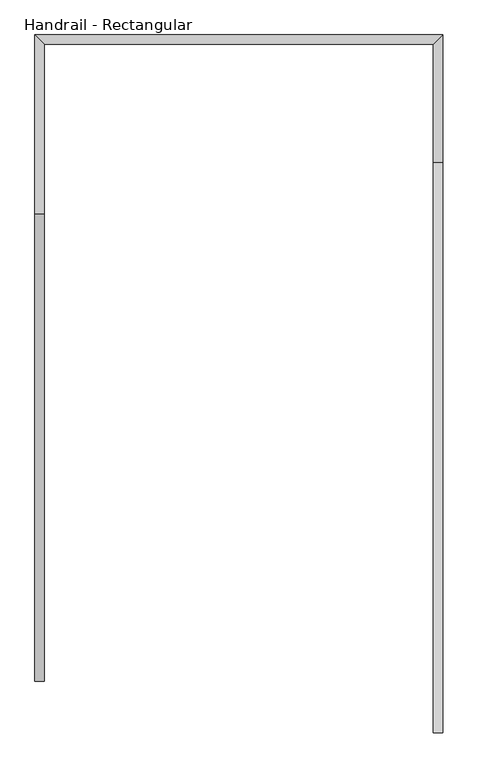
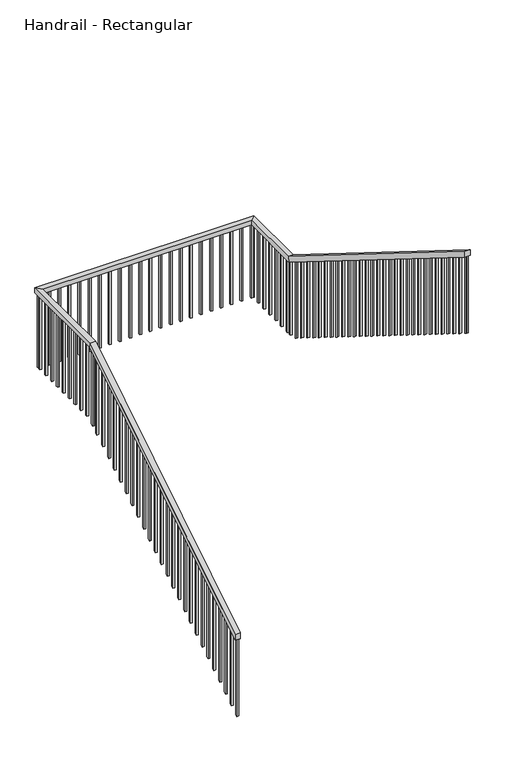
"""IFC4 building model written with IfcOpenShell, lengths in millimetres: railing geometry, Handrail - Rectangular."""

from ifc_helpers import new_model, si_unit, frame, origin, place, context, project, spatial, polyline, outline, extrude, faceted_brep, source, transform, mapped, element, save


def handrail_rectangular_ed192b8c(model_context):
    return source(origin(), model_context, "Body", "SolidModel", [
        faceted_brep([(29211.6482386, 4381.0975872, 1088.5714286), (29211.6482386, 4381.0975872, 1028.7093152), (29262.4482386, 4381.0975872, 1028.7093152), (29262.4482386, 4381.0975872, 1088.5714286), (29211.6482386, 6895.6975872, 2656.1142857), (29211.6482386, 6910.2347273, 2605.3142857), (29262.4482386, 6910.2347273, 2605.3142857), (29262.4482386, 6895.6975872, 2656.1142857), (29211.6482386, 7860.8975872, 2656.1142857), (29211.6482386, 7860.8975872, 2605.3142857), (29262.4482386, 7810.0975872, 2605.3142857), (29262.4482386, 7810.0975872, 2656.1142857), (31407.2771094, 7860.8975872, 2656.1142857), (31407.2771094, 7860.8975872, 2605.3142857), (31356.4771094, 7810.0975872, 2605.3142857), (31356.4771094, 7810.0975872, 2656.1142857), (31407.2771094, 7175.0975872, 2656.1142857), (31407.2771094, 7160.560447, 2605.3142857), (31356.4771094, 7160.560447, 2605.3142857), (31356.4771094, 7175.0975872, 2656.1142857), (31407.2771094, 4101.6975872, 4572.0), (31356.4771094, 4101.6975872, 4572.0), (31356.4771094, 4101.6975872, 4512.1378867), (31407.2771094, 4101.6975872, 4512.1378867)], [[[0, 1, 2, 3]], [[1, 0, 4, 5]], [[2, 1, 5, 6]], [[3, 2, 6, 7]], [[0, 3, 7, 4]], [[5, 4, 8, 9]], [[6, 5, 9, 10]], [[7, 6, 10, 11]], [[4, 7, 11, 8]], [[9, 8, 12, 13]], [[10, 9, 13, 14]], [[11, 10, 14, 15]], [[8, 11, 15, 12]], [[13, 12, 16, 17]], [[14, 13, 17, 18]], [[15, 14, 18, 19]], [[12, 15, 19, 16]], [[20, 21, 22, 23]], [[17, 16, 20, 23]], [[18, 17, 23, 22]], [[19, 18, 22, 21]], [[16, 19, 21, 20]]]),
        extrude(outline(polyline([(4136.6225872, 4490.3664581), (4136.6225872, 3675.4099734), (4117.5725872, 3687.2852981), (4117.5725872, 4502.2417828), (4136.6225872, 4490.3664581)])), frame((31372.3521094, 0.0, 0.0), z_axis=(1.0, 0.0, 0.0), x_axis=(0.0, 1.0, 0.0)), (0.0, 0.0, 1.0), 19.05),
        extrude(outline(polyline([(4238.2225872, 4427.0313932), (4238.2225872, 3612.0749085), (4219.1725872, 3623.9502331), (4219.1725872, 4438.9067178), (4238.2225872, 4427.0313932)])), frame((31372.3521094, 0.0, 0.0), z_axis=(1.0, 0.0, 0.0), x_axis=(0.0, 1.0, 0.0)), (0.0, 0.0, 1.0), 19.05),
        extrude(outline(polyline([(4339.8225872, 4363.6963282), (4339.8225872, 3548.7398435), (4320.7725872, 3560.6151682), (4320.7725872, 4375.5716529), (4339.8225872, 4363.6963282)])), frame((31372.3521094, 0.0, 0.0), z_axis=(1.0, 0.0, 0.0), x_axis=(0.0, 1.0, 0.0)), (0.0, 0.0, 1.0), 19.05),
        extrude(outline(polyline([(4441.4225872, 4300.3612633), (4441.4225872, 3485.4047786), (4422.3725872, 3497.2801033), (4422.3725872, 4312.236588), (4441.4225872, 4300.3612633)])), frame((31372.3521094, 0.0, 0.0), z_axis=(1.0, 0.0, 0.0), x_axis=(0.0, 1.0, 0.0)), (0.0, 0.0, 1.0), 19.05),
        extrude(outline(polyline([(4543.0225872, 4237.0261984), (4543.0225872, 3422.0697137), (4523.9725872, 3433.9450383), (4523.9725872, 4248.901523), (4543.0225872, 4237.0261984)])), frame((31372.3521094, 0.0, 0.0), z_axis=(1.0, 0.0, 0.0), x_axis=(0.0, 1.0, 0.0)), (0.0, 0.0, 1.0), 19.05),
        extrude(outline(polyline([(4644.6225872, 4173.6911334), (4644.6225872, 3358.7346487), (4625.5725872, 3370.6099734), (4625.5725872, 4185.5664581), (4644.6225872, 4173.6911334)])), frame((31372.3521094, 0.0, 0.0), z_axis=(1.0, 0.0, 0.0), x_axis=(0.0, 1.0, 0.0)), (0.0, 0.0, 1.0), 19.05),
        extrude(outline(polyline([(4746.2225872, 4110.3560685), (4746.2225872, 3295.3995838), (4727.1725872, 3307.2749085), (4727.1725872, 4122.2313932), (4746.2225872, 4110.3560685)])), frame((31372.3521094, 0.0, 0.0), z_axis=(1.0, 0.0, 0.0), x_axis=(0.0, 1.0, 0.0)), (0.0, 0.0, 1.0), 19.05),
        extrude(outline(polyline([(4847.8225872, 4047.0210036), (4847.8225872, 3232.0645188), (4828.7725872, 3243.9398435), (4828.7725872, 4058.8963282), (4847.8225872, 4047.0210036)])), frame((31372.3521094, 0.0, 0.0), z_axis=(1.0, 0.0, 0.0), x_axis=(0.0, 1.0, 0.0)), (0.0, 0.0, 1.0), 19.05),
        extrude(outline(polyline([(4949.4225872, 3983.6859386), (4949.4225872, 3168.7294539), (4930.3725872, 3180.6047786), (4930.3725872, 3995.5612633), (4949.4225872, 3983.6859386)])), frame((31372.3521094, 0.0, 0.0), z_axis=(1.0, 0.0, 0.0), x_axis=(0.0, 1.0, 0.0)), (0.0, 0.0, 1.0), 19.05),
        extrude(outline(polyline([(5051.0225872, 3920.3508737), (5051.0225872, 3105.394389), (5031.9725872, 3117.2697137), (5031.9725872, 3932.2261984), (5051.0225872, 3920.3508737)])), frame((31372.3521094, 0.0, 0.0), z_axis=(1.0, 0.0, 0.0), x_axis=(0.0, 1.0, 0.0)), (0.0, 0.0, 1.0), 19.05),
        extrude(outline(polyline([(5152.6225872, 3857.0158087), (5152.6225872, 3042.059324), (5133.5725872, 3053.9346487), (5133.5725872, 3868.8911334), (5152.6225872, 3857.0158087)])), frame((31372.3521094, 0.0, 0.0), z_axis=(1.0, 0.0, 0.0), x_axis=(0.0, 1.0, 0.0)), (0.0, 0.0, 1.0), 19.05),
        extrude(outline(polyline([(5254.2225872, 3793.6807438), (5254.2225872, 2978.7242591), (5235.1725872, 2990.5995838), (5235.1725872, 3805.5560685), (5254.2225872, 3793.6807438)])), frame((31372.3521094, 0.0, 0.0), z_axis=(1.0, 0.0, 0.0), x_axis=(0.0, 1.0, 0.0)), (0.0, 0.0, 1.0), 19.05),
        extrude(outline(polyline([(5355.8225872, 3730.3456789), (5355.8225872, 2915.3891942), (5336.7725872, 2927.2645188), (5336.7725872, 3742.2210036), (5355.8225872, 3730.3456789)])), frame((31372.3521094, 0.0, 0.0), z_axis=(1.0, 0.0, 0.0), x_axis=(0.0, 1.0, 0.0)), (0.0, 0.0, 1.0), 19.05),
        extrude(outline(polyline([(5457.4225872, 3667.0106139), (5457.4225872, 2852.0541292), (5438.3725872, 2863.9294539), (5438.3725872, 3678.8859386), (5457.4225872, 3667.0106139)])), frame((31372.3521094, 0.0, 0.0), z_axis=(1.0, 0.0, 0.0), x_axis=(0.0, 1.0, 0.0)), (0.0, 0.0, 1.0), 19.05),
        extrude(outline(polyline([(5559.0225872, 3603.675549), (5559.0225872, 2788.7190643), (5539.9725872, 2800.594389), (5539.9725872, 3615.5508737), (5559.0225872, 3603.675549)])), frame((31372.3521094, 0.0, 0.0), z_axis=(1.0, 0.0, 0.0), x_axis=(0.0, 1.0, 0.0)), (0.0, 0.0, 1.0), 19.05),
        extrude(outline(polyline([(5660.6225872, 3540.3404841), (5660.6225872, 2725.3839994), (5641.5725872, 2737.259324), (5641.5725872, 3552.2158087), (5660.6225872, 3540.3404841)])), frame((31372.3521094, 0.0, 0.0), z_axis=(1.0, 0.0, 0.0), x_axis=(0.0, 1.0, 0.0)), (0.0, 0.0, 1.0), 19.05),
        extrude(outline(polyline([(5762.2225872, 3477.0054191), (5762.2225872, 2662.0489344), (5743.1725872, 2673.9242591), (5743.1725872, 3488.8807438), (5762.2225872, 3477.0054191)])), frame((31372.3521094, 0.0, 0.0), z_axis=(1.0, 0.0, 0.0), x_axis=(0.0, 1.0, 0.0)), (0.0, 0.0, 1.0), 19.05),
        extrude(outline(polyline([(5863.8225872, 3413.6703542), (5863.8225872, 2598.7138695), (5844.7725872, 2610.5891942), (5844.7725872, 3425.5456789), (5863.8225872, 3413.6703542)])), frame((31372.3521094, 0.0, 0.0), z_axis=(1.0, 0.0, 0.0), x_axis=(0.0, 1.0, 0.0)), (0.0, 0.0, 1.0), 19.05),
        extrude(outline(polyline([(5965.4225872, 3350.3352893), (5965.4225872, 2535.3788046), (5946.3725872, 2547.2541292), (5946.3725872, 3362.2106139), (5965.4225872, 3350.3352893)])), frame((31372.3521094, 0.0, 0.0), z_axis=(1.0, 0.0, 0.0), x_axis=(0.0, 1.0, 0.0)), (0.0, 0.0, 1.0), 19.05),
        extrude(outline(polyline([(6067.0225872, 3287.0002243), (6067.0225872, 2472.0437396), (6047.9725872, 2483.9190643), (6047.9725872, 3298.875549), (6067.0225872, 3287.0002243)])), frame((31372.3521094, 0.0, 0.0), z_axis=(1.0, 0.0, 0.0), x_axis=(0.0, 1.0, 0.0)), (0.0, 0.0, 1.0), 19.05),
        extrude(outline(polyline([(6168.6225872, 3223.6651594), (6168.6225872, 2408.7086747), (6149.5725872, 2420.5839994), (6149.5725872, 3235.5404841), (6168.6225872, 3223.6651594)])), frame((31372.3521094, 0.0, 0.0), z_axis=(1.0, 0.0, 0.0), x_axis=(0.0, 1.0, 0.0)), (0.0, 0.0, 1.0), 19.05),
        extrude(outline(polyline([(6270.2225872, 3160.3300945), (6270.2225872, 2345.3736098), (6251.1725872, 2357.2489344), (6251.1725872, 3172.2054191), (6270.2225872, 3160.3300945)])), frame((31372.3521094, 0.0, 0.0), z_axis=(1.0, 0.0, 0.0), x_axis=(0.0, 1.0, 0.0)), (0.0, 0.0, 1.0), 19.05),
        extrude(outline(polyline([(6371.8225872, 3096.9950295), (6371.8225872, 2282.0385448), (6352.7725872, 2293.9138695), (6352.7725872, 3108.8703542), (6371.8225872, 3096.9950295)])), frame((31372.3521094, 0.0, 0.0), z_axis=(1.0, 0.0, 0.0), x_axis=(0.0, 1.0, 0.0)), (0.0, 0.0, 1.0), 19.05),
        extrude(outline(polyline([(6473.4225872, 3033.6599646), (6473.4225872, 2218.7034799), (6454.3725872, 2230.5788046), (6454.3725872, 3045.5352893), (6473.4225872, 3033.6599646)])), frame((31372.3521094, 0.0, 0.0), z_axis=(1.0, 0.0, 0.0), x_axis=(0.0, 1.0, 0.0)), (0.0, 0.0, 1.0), 19.05),
        extrude(outline(polyline([(6575.0225872, 2970.3248997), (6575.0225872, 2155.368415), (6555.9725872, 2167.2437396), (6555.9725872, 2982.2002243), (6575.0225872, 2970.3248997)])), frame((31372.3521094, 0.0, 0.0), z_axis=(1.0, 0.0, 0.0), x_axis=(0.0, 1.0, 0.0)), (0.0, 0.0, 1.0), 19.05),
        extrude(outline(polyline([(6676.6225872, 2906.9898347), (6676.6225872, 2092.03335), (6657.5725872, 2103.9086747), (6657.5725872, 2918.8651594), (6676.6225872, 2906.9898347)])), frame((31372.3521094, 0.0, 0.0), z_axis=(1.0, 0.0, 0.0), x_axis=(0.0, 1.0, 0.0)), (0.0, 0.0, 1.0), 19.05),
        extrude(outline(polyline([(6778.2225872, 2843.6547698), (6778.2225872, 2028.6982851), (6759.1725872, 2040.5736098), (6759.1725872, 2855.5300945), (6778.2225872, 2843.6547698)])), frame((31372.3521094, 0.0, 0.0), z_axis=(1.0, 0.0, 0.0), x_axis=(0.0, 1.0, 0.0)), (0.0, 0.0, 1.0), 19.05),
        extrude(outline(polyline([(6879.8225872, 2780.3197048), (6879.8225872, 1965.3632201), (6860.7725872, 1977.2385448), (6860.7725872, 2792.1950295), (6879.8225872, 2780.3197048)])), frame((31372.3521094, 0.0, 0.0), z_axis=(1.0, 0.0, 0.0), x_axis=(0.0, 1.0, 0.0)), (0.0, 0.0, 1.0), 19.05),
        extrude(outline(polyline([(6981.4225872, 2716.9846399), (6981.4225872, 1902.0281552), (6962.3725872, 1913.9034799), (6962.3725872, 2728.8599646), (6981.4225872, 2716.9846399)])), frame((31372.3521094, 0.0, 0.0), z_axis=(1.0, 0.0, 0.0), x_axis=(0.0, 1.0, 0.0)), (0.0, 0.0, 1.0), 19.05),
        extrude(outline(polyline([(7083.0225872, 2653.649575), (7083.0225872, 1838.6930903), (7063.9725872, 1850.568415), (7063.9725872, 2665.5248997), (7083.0225872, 2653.649575)])), frame((31372.3521094, 0.0, 0.0), z_axis=(1.0, 0.0, 0.0), x_axis=(0.0, 1.0, 0.0)), (0.0, 0.0, 1.0), 19.05),
        extrude(outline(polyline([(31391.4021094, 7235.4225872), (31391.4021094, 7216.3725872), (31372.3521094, 7216.3725872), (31372.3521094, 7235.4225872), (31391.4021094, 7235.4225872)])), frame((0.0, 0.0, 1817.9142857), z_axis=(0.0, 0.0, 1.0), x_axis=(1.0, 0.0, 0.0)), (0.0, 0.0, 1.0), 787.4),
        extrude(outline(polyline([(31391.4021094, 7337.0225872), (31391.4021094, 7317.9725872), (31372.3521094, 7317.9725872), (31372.3521094, 7337.0225872), (31391.4021094, 7337.0225872)])), frame((0.0, 0.0, 1817.9142857), z_axis=(0.0, 0.0, 1.0), x_axis=(1.0, 0.0, 0.0)), (0.0, 0.0, 1.0), 787.4),
        extrude(outline(polyline([(31391.4021094, 7438.6225872), (31391.4021094, 7419.5725872), (31372.3521094, 7419.5725872), (31372.3521094, 7438.6225872), (31391.4021094, 7438.6225872)])), frame((0.0, 0.0, 1817.9142857), z_axis=(0.0, 0.0, 1.0), x_axis=(1.0, 0.0, 0.0)), (0.0, 0.0, 1.0), 787.4),
        extrude(outline(polyline([(31391.4021094, 7540.2225872), (31391.4021094, 7521.1725872), (31372.3521094, 7521.1725872), (31372.3521094, 7540.2225872), (31391.4021094, 7540.2225872)])), frame((0.0, 0.0, 1817.9142857), z_axis=(0.0, 0.0, 1.0), x_axis=(1.0, 0.0, 0.0)), (0.0, 0.0, 1.0), 787.4),
        extrude(outline(polyline([(31391.4021094, 7641.8225872), (31391.4021094, 7622.7725872), (31372.3521094, 7622.7725872), (31372.3521094, 7641.8225872), (31391.4021094, 7641.8225872)])), frame((0.0, 0.0, 1817.9142857), z_axis=(0.0, 0.0, 1.0), x_axis=(1.0, 0.0, 0.0)), (0.0, 0.0, 1.0), 787.4),
        extrude(outline(polyline([(31391.4021094, 7743.4225872), (31391.4021094, 7724.3725872), (31372.3521094, 7724.3725872), (31372.3521094, 7743.4225872), (31391.4021094, 7743.4225872)])), frame((0.0, 0.0, 1817.9142857), z_axis=(0.0, 0.0, 1.0), x_axis=(1.0, 0.0, 0.0)), (0.0, 0.0, 1.0), 787.4),
        extrude(outline(polyline([(31361.1232386, 7845.0225872), (31380.1732386, 7845.0225872), (31380.1732386, 7825.9725872), (31361.1232386, 7825.9725872), (31361.1232386, 7845.0225872)])), frame((0.0, 0.0, 1817.9142857), z_axis=(0.0, 0.0, 1.0), x_axis=(1.0, 0.0, 0.0)), (0.0, 0.0, 1.0), 787.4),
        extrude(outline(polyline([(31259.5232386, 7845.0225872), (31278.5732386, 7845.0225872), (31278.5732386, 7825.9725872), (31259.5232386, 7825.9725872), (31259.5232386, 7845.0225872)])), frame((0.0, 0.0, 1817.9142857), z_axis=(0.0, 0.0, 1.0), x_axis=(1.0, 0.0, 0.0)), (0.0, 0.0, 1.0), 787.4),
        extrude(outline(polyline([(31157.9232386, 7845.0225872), (31176.9732386, 7845.0225872), (31176.9732386, 7825.9725872), (31157.9232386, 7825.9725872), (31157.9232386, 7845.0225872)])), frame((0.0, 0.0, 1817.9142857), z_axis=(0.0, 0.0, 1.0), x_axis=(1.0, 0.0, 0.0)), (0.0, 0.0, 1.0), 787.4),
        extrude(outline(polyline([(31056.3232386, 7845.0225872), (31075.3732386, 7845.0225872), (31075.3732386, 7825.9725872), (31056.3232386, 7825.9725872), (31056.3232386, 7845.0225872)])), frame((0.0, 0.0, 1817.9142857), z_axis=(0.0, 0.0, 1.0), x_axis=(1.0, 0.0, 0.0)), (0.0, 0.0, 1.0), 787.4),
        extrude(outline(polyline([(30954.7232386, 7845.0225872), (30973.7732386, 7845.0225872), (30973.7732386, 7825.9725872), (30954.7232386, 7825.9725872), (30954.7232386, 7845.0225872)])), frame((0.0, 0.0, 1817.9142857), z_axis=(0.0, 0.0, 1.0), x_axis=(1.0, 0.0, 0.0)), (0.0, 0.0, 1.0), 787.4),
        extrude(outline(polyline([(30853.1232386, 7845.0225872), (30872.1732386, 7845.0225872), (30872.1732386, 7825.9725872), (30853.1232386, 7825.9725872), (30853.1232386, 7845.0225872)])), frame((0.0, 0.0, 1817.9142857), z_axis=(0.0, 0.0, 1.0), x_axis=(1.0, 0.0, 0.0)), (0.0, 0.0, 1.0), 787.4),
        extrude(outline(polyline([(30751.5232386, 7845.0225872), (30770.5732386, 7845.0225872), (30770.5732386, 7825.9725872), (30751.5232386, 7825.9725872), (30751.5232386, 7845.0225872)])), frame((0.0, 0.0, 1817.9142857), z_axis=(0.0, 0.0, 1.0), x_axis=(1.0, 0.0, 0.0)), (0.0, 0.0, 1.0), 787.4),
        extrude(outline(polyline([(30649.9232386, 7845.0225872), (30668.9732386, 7845.0225872), (30668.9732386, 7825.9725872), (30649.9232386, 7825.9725872), (30649.9232386, 7845.0225872)])), frame((0.0, 0.0, 1817.9142857), z_axis=(0.0, 0.0, 1.0), x_axis=(1.0, 0.0, 0.0)), (0.0, 0.0, 1.0), 787.4),
        extrude(outline(polyline([(30548.3232386, 7845.0225872), (30567.3732386, 7845.0225872), (30567.3732386, 7825.9725872), (30548.3232386, 7825.9725872), (30548.3232386, 7845.0225872)])), frame((0.0, 0.0, 1817.9142857), z_axis=(0.0, 0.0, 1.0), x_axis=(1.0, 0.0, 0.0)), (0.0, 0.0, 1.0), 787.4),
        extrude(outline(polyline([(30446.7232386, 7845.0225872), (30465.7732386, 7845.0225872), (30465.7732386, 7825.9725872), (30446.7232386, 7825.9725872), (30446.7232386, 7845.0225872)])), frame((0.0, 0.0, 1817.9142857), z_axis=(0.0, 0.0, 1.0), x_axis=(1.0, 0.0, 0.0)), (0.0, 0.0, 1.0), 787.4),
        extrude(outline(polyline([(30345.1232386, 7845.0225872), (30364.1732386, 7845.0225872), (30364.1732386, 7825.9725872), (30345.1232386, 7825.9725872), (30345.1232386, 7845.0225872)])), frame((0.0, 0.0, 1817.9142857), z_axis=(0.0, 0.0, 1.0), x_axis=(1.0, 0.0, 0.0)), (0.0, 0.0, 1.0), 787.4),
        extrude(outline(polyline([(30243.5232386, 7845.0225872), (30262.5732386, 7845.0225872), (30262.5732386, 7825.9725872), (30243.5232386, 7825.9725872), (30243.5232386, 7845.0225872)])), frame((0.0, 0.0, 1817.9142857), z_axis=(0.0, 0.0, 1.0), x_axis=(1.0, 0.0, 0.0)), (0.0, 0.0, 1.0), 787.4),
        extrude(outline(polyline([(30141.9232386, 7845.0225872), (30160.9732386, 7845.0225872), (30160.9732386, 7825.9725872), (30141.9232386, 7825.9725872), (30141.9232386, 7845.0225872)])), frame((0.0, 0.0, 1817.9142857), z_axis=(0.0, 0.0, 1.0), x_axis=(1.0, 0.0, 0.0)), (0.0, 0.0, 1.0), 787.4),
        extrude(outline(polyline([(30040.3232386, 7845.0225872), (30059.3732386, 7845.0225872), (30059.3732386, 7825.9725872), (30040.3232386, 7825.9725872), (30040.3232386, 7845.0225872)])), frame((0.0, 0.0, 1817.9142857), z_axis=(0.0, 0.0, 1.0), x_axis=(1.0, 0.0, 0.0)), (0.0, 0.0, 1.0), 787.4),
        extrude(outline(polyline([(29938.7232386, 7845.0225872), (29957.7732386, 7845.0225872), (29957.7732386, 7825.9725872), (29938.7232386, 7825.9725872), (29938.7232386, 7845.0225872)])), frame((0.0, 0.0, 1817.9142857), z_axis=(0.0, 0.0, 1.0), x_axis=(1.0, 0.0, 0.0)), (0.0, 0.0, 1.0), 787.4),
        extrude(outline(polyline([(29837.1232386, 7845.0225872), (29856.1732386, 7845.0225872), (29856.1732386, 7825.9725872), (29837.1232386, 7825.9725872), (29837.1232386, 7845.0225872)])), frame((0.0, 0.0, 1817.9142857), z_axis=(0.0, 0.0, 1.0), x_axis=(1.0, 0.0, 0.0)), (0.0, 0.0, 1.0), 787.4),
        extrude(outline(polyline([(29735.5232386, 7845.0225872), (29754.5732386, 7845.0225872), (29754.5732386, 7825.9725872), (29735.5232386, 7825.9725872), (29735.5232386, 7845.0225872)])), frame((0.0, 0.0, 1817.9142857), z_axis=(0.0, 0.0, 1.0), x_axis=(1.0, 0.0, 0.0)), (0.0, 0.0, 1.0), 787.4),
        extrude(outline(polyline([(29633.9232386, 7845.0225872), (29652.9732386, 7845.0225872), (29652.9732386, 7825.9725872), (29633.9232386, 7825.9725872), (29633.9232386, 7845.0225872)])), frame((0.0, 0.0, 1817.9142857), z_axis=(0.0, 0.0, 1.0), x_axis=(1.0, 0.0, 0.0)), (0.0, 0.0, 1.0), 787.4),
        extrude(outline(polyline([(29532.3232386, 7845.0225872), (29551.3732386, 7845.0225872), (29551.3732386, 7825.9725872), (29532.3232386, 7825.9725872), (29532.3232386, 7845.0225872)])), frame((0.0, 0.0, 1817.9142857), z_axis=(0.0, 0.0, 1.0), x_axis=(1.0, 0.0, 0.0)), (0.0, 0.0, 1.0), 787.4),
        extrude(outline(polyline([(29430.7232386, 7845.0225872), (29449.7732386, 7845.0225872), (29449.7732386, 7825.9725872), (29430.7232386, 7825.9725872), (29430.7232386, 7845.0225872)])), frame((0.0, 0.0, 1817.9142857), z_axis=(0.0, 0.0, 1.0), x_axis=(1.0, 0.0, 0.0)), (0.0, 0.0, 1.0), 787.4),
        extrude(outline(polyline([(29329.1232386, 7845.0225872), (29348.1732386, 7845.0225872), (29348.1732386, 7825.9725872), (29329.1232386, 7825.9725872), (29329.1232386, 7845.0225872)])), frame((0.0, 0.0, 1817.9142857), z_axis=(0.0, 0.0, 1.0), x_axis=(1.0, 0.0, 0.0)), (0.0, 0.0, 1.0), 787.4),
        extrude(outline(polyline([(29227.5232386, 7800.5725872), (29227.5232386, 7819.6225872), (29246.5732386, 7819.6225872), (29246.5732386, 7800.5725872), (29227.5232386, 7800.5725872)])), frame((0.0, 0.0, 1817.9142857), z_axis=(0.0, 0.0, 1.0), x_axis=(1.0, 0.0, 0.0)), (0.0, 0.0, 1.0), 787.4),
        extrude(outline(polyline([(29227.5232386, 7698.9725872), (29227.5232386, 7718.0225872), (29246.5732386, 7718.0225872), (29246.5732386, 7698.9725872), (29227.5232386, 7698.9725872)])), frame((0.0, 0.0, 1817.9142857), z_axis=(0.0, 0.0, 1.0), x_axis=(1.0, 0.0, 0.0)), (0.0, 0.0, 1.0), 787.4),
        extrude(outline(polyline([(29227.5232386, 7597.3725872), (29227.5232386, 7616.4225872), (29246.5732386, 7616.4225872), (29246.5732386, 7597.3725872), (29227.5232386, 7597.3725872)])), frame((0.0, 0.0, 1817.9142857), z_axis=(0.0, 0.0, 1.0), x_axis=(1.0, 0.0, 0.0)), (0.0, 0.0, 1.0), 787.4),
        extrude(outline(polyline([(29227.5232386, 7495.7725872), (29227.5232386, 7514.8225872), (29246.5732386, 7514.8225872), (29246.5732386, 7495.7725872), (29227.5232386, 7495.7725872)])), frame((0.0, 0.0, 1817.9142857), z_axis=(0.0, 0.0, 1.0), x_axis=(1.0, 0.0, 0.0)), (0.0, 0.0, 1.0), 787.4),
        extrude(outline(polyline([(29227.5232386, 7394.1725872), (29227.5232386, 7413.2225872), (29246.5732386, 7413.2225872), (29246.5732386, 7394.1725872), (29227.5232386, 7394.1725872)])), frame((0.0, 0.0, 1817.9142857), z_axis=(0.0, 0.0, 1.0), x_axis=(1.0, 0.0, 0.0)), (0.0, 0.0, 1.0), 787.4),
        extrude(outline(polyline([(29227.5232386, 7292.5725872), (29227.5232386, 7311.6225872), (29246.5732386, 7311.6225872), (29246.5732386, 7292.5725872), (29227.5232386, 7292.5725872)])), frame((0.0, 0.0, 1817.9142857), z_axis=(0.0, 0.0, 1.0), x_axis=(1.0, 0.0, 0.0)), (0.0, 0.0, 1.0), 787.4),
        extrude(outline(polyline([(29227.5232386, 7190.9725872), (29227.5232386, 7210.0225872), (29246.5732386, 7210.0225872), (29246.5732386, 7190.9725872), (29227.5232386, 7190.9725872)])), frame((0.0, 0.0, 1817.9142857), z_axis=(0.0, 0.0, 1.0), x_axis=(1.0, 0.0, 0.0)), (0.0, 0.0, 1.0), 787.4),
        extrude(outline(polyline([(29227.5232386, 7089.3725872), (29227.5232386, 7108.4225872), (29246.5732386, 7108.4225872), (29246.5732386, 7089.3725872), (29227.5232386, 7089.3725872)])), frame((0.0, 0.0, 1817.9142857), z_axis=(0.0, 0.0, 1.0), x_axis=(1.0, 0.0, 0.0)), (0.0, 0.0, 1.0), 787.4),
        extrude(outline(polyline([(29227.5232386, 6987.7725872), (29227.5232386, 7006.8225872), (29246.5732386, 7006.8225872), (29246.5732386, 6987.7725872), (29227.5232386, 6987.7725872)])), frame((0.0, 0.0, 1817.9142857), z_axis=(0.0, 0.0, 1.0), x_axis=(1.0, 0.0, 0.0)), (0.0, 0.0, 1.0), 787.4),
        extrude(outline(polyline([(6829.0225872, 2554.688536), (6829.0225872, 1739.7320513), (6809.9725872, 1727.8567266), (6809.9725872, 2542.8132113), (6829.0225872, 2554.688536)])), frame((29227.5232386, 0.0, 0.0), z_axis=(1.0, 0.0, 0.0), x_axis=(0.0, 1.0, 0.0)), (0.0, 0.0, 1.0), 19.05),
        extrude(outline(polyline([(6727.4225872, 2491.3534711), (6727.4225872, 1676.3969864), (6708.3725872, 1664.5216617), (6708.3725872, 2479.4781464), (6727.4225872, 2491.3534711)])), frame((29227.5232386, 0.0, 0.0), z_axis=(1.0, 0.0, 0.0), x_axis=(0.0, 1.0, 0.0)), (0.0, 0.0, 1.0), 19.05),
        extrude(outline(polyline([(6625.8225872, 2428.0184061), (6625.8225872, 1613.0619214), (6606.7725872, 1601.1865968), (6606.7725872, 2416.1430815), (6625.8225872, 2428.0184061)])), frame((29227.5232386, 0.0, 0.0), z_axis=(1.0, 0.0, 0.0), x_axis=(0.0, 1.0, 0.0)), (0.0, 0.0, 1.0), 19.05),
        extrude(outline(polyline([(6524.2225872, 2364.6833412), (6524.2225872, 1549.7268565), (6505.1725872, 1537.8515318), (6505.1725872, 2352.8080165), (6524.2225872, 2364.6833412)])), frame((29227.5232386, 0.0, 0.0), z_axis=(1.0, 0.0, 0.0), x_axis=(0.0, 1.0, 0.0)), (0.0, 0.0, 1.0), 19.05),
        extrude(outline(polyline([(6422.6225872, 2301.3482763), (6422.6225872, 1486.3917916), (6403.5725872, 1474.5164669), (6403.5725872, 2289.4729516), (6422.6225872, 2301.3482763)])), frame((29227.5232386, 0.0, 0.0), z_axis=(1.0, 0.0, 0.0), x_axis=(0.0, 1.0, 0.0)), (0.0, 0.0, 1.0), 19.05),
        extrude(outline(polyline([(6321.0225872, 2238.0132113), (6321.0225872, 1423.0567266), (6301.9725872, 1411.181402), (6301.9725872, 2226.1378867), (6321.0225872, 2238.0132113)])), frame((29227.5232386, 0.0, 0.0), z_axis=(1.0, 0.0, 0.0), x_axis=(0.0, 1.0, 0.0)), (0.0, 0.0, 1.0), 19.05),
        extrude(outline(polyline([(6219.4225872, 2174.6781464), (6219.4225872, 1359.7216617), (6200.3725872, 1347.846337), (6200.3725872, 2162.8028217), (6219.4225872, 2174.6781464)])), frame((29227.5232386, 0.0, 0.0), z_axis=(1.0, 0.0, 0.0), x_axis=(0.0, 1.0, 0.0)), (0.0, 0.0, 1.0), 19.05),
        extrude(outline(polyline([(6117.8225872, 2111.3430815), (6117.8225872, 1296.3865968), (6098.7725872, 1284.5112721), (6098.7725872, 2099.4677568), (6117.8225872, 2111.3430815)])), frame((29227.5232386, 0.0, 0.0), z_axis=(1.0, 0.0, 0.0), x_axis=(0.0, 1.0, 0.0)), (0.0, 0.0, 1.0), 19.05),
        extrude(outline(polyline([(6016.2225872, 2048.0080165), (6016.2225872, 1233.0515318), (5997.1725872, 1221.1762072), (5997.1725872, 2036.1326919), (6016.2225872, 2048.0080165)])), frame((29227.5232386, 0.0, 0.0), z_axis=(1.0, 0.0, 0.0), x_axis=(0.0, 1.0, 0.0)), (0.0, 0.0, 1.0), 19.05),
        extrude(outline(polyline([(5914.6225872, 1984.6729516), (5914.6225872, 1169.7164669), (5895.5725872, 1157.8411422), (5895.5725872, 1972.7976269), (5914.6225872, 1984.6729516)])), frame((29227.5232386, 0.0, 0.0), z_axis=(1.0, 0.0, 0.0), x_axis=(0.0, 1.0, 0.0)), (0.0, 0.0, 1.0), 19.05),
        extrude(outline(polyline([(5813.0225872, 1921.3378867), (5813.0225872, 1106.381402), (5793.9725872, 1094.5060773), (5793.9725872, 1909.462562), (5813.0225872, 1921.3378867)])), frame((29227.5232386, 0.0, 0.0), z_axis=(1.0, 0.0, 0.0), x_axis=(0.0, 1.0, 0.0)), (0.0, 0.0, 1.0), 19.05),
        extrude(outline(polyline([(5711.4225872, 1858.0028217), (5711.4225872, 1043.046337), (5692.3725872, 1031.1710124), (5692.3725872, 1846.1274971), (5711.4225872, 1858.0028217)])), frame((29227.5232386, 0.0, 0.0), z_axis=(1.0, 0.0, 0.0), x_axis=(0.0, 1.0, 0.0)), (0.0, 0.0, 1.0), 19.05),
        extrude(outline(polyline([(5609.8225872, 1794.6677568), (5609.8225872, 979.7112721), (5590.7725872, 967.8359474), (5590.7725872, 1782.7924321), (5609.8225872, 1794.6677568)])), frame((29227.5232386, 0.0, 0.0), z_axis=(1.0, 0.0, 0.0), x_axis=(0.0, 1.0, 0.0)), (0.0, 0.0, 1.0), 19.05),
        extrude(outline(polyline([(5508.2225872, 1731.3326919), (5508.2225872, 916.3762072), (5489.1725872, 904.5008825), (5489.1725872, 1719.4573672), (5508.2225872, 1731.3326919)])), frame((29227.5232386, 0.0, 0.0), z_axis=(1.0, 0.0, 0.0), x_axis=(0.0, 1.0, 0.0)), (0.0, 0.0, 1.0), 19.05),
        extrude(outline(polyline([(5406.6225872, 1667.9976269), (5406.6225872, 853.0411422), (5387.5725872, 841.1658175), (5387.5725872, 1656.1223023), (5406.6225872, 1667.9976269)])), frame((29227.5232386, 0.0, 0.0), z_axis=(1.0, 0.0, 0.0), x_axis=(0.0, 1.0, 0.0)), (0.0, 0.0, 1.0), 19.05),
        extrude(outline(polyline([(5305.0225872, 1604.662562), (5305.0225872, 789.7060773), (5285.9725872, 777.8307526), (5285.9725872, 1592.7872373), (5305.0225872, 1604.662562)])), frame((29227.5232386, 0.0, 0.0), z_axis=(1.0, 0.0, 0.0), x_axis=(0.0, 1.0, 0.0)), (0.0, 0.0, 1.0), 19.05),
        extrude(outline(polyline([(5203.4225872, 1541.3274971), (5203.4225872, 726.3710124), (5184.3725872, 714.4956877), (5184.3725872, 1529.4521724), (5203.4225872, 1541.3274971)])), frame((29227.5232386, 0.0, 0.0), z_axis=(1.0, 0.0, 0.0), x_axis=(0.0, 1.0, 0.0)), (0.0, 0.0, 1.0), 19.05),
        extrude(outline(polyline([(5101.8225872, 1477.9924321), (5101.8225872, 663.0359474), (5082.7725872, 651.1606227), (5082.7725872, 1466.1171074), (5101.8225872, 1477.9924321)])), frame((29227.5232386, 0.0, 0.0), z_axis=(1.0, 0.0, 0.0), x_axis=(0.0, 1.0, 0.0)), (0.0, 0.0, 1.0), 19.05),
        extrude(outline(polyline([(5000.2225872, 1414.6573672), (5000.2225872, 599.7008825), (4981.1725872, 587.8255578), (4981.1725872, 1402.7820425), (5000.2225872, 1414.6573672)])), frame((29227.5232386, 0.0, 0.0), z_axis=(1.0, 0.0, 0.0), x_axis=(0.0, 1.0, 0.0)), (0.0, 0.0, 1.0), 19.05),
        extrude(outline(polyline([(4898.6225872, 1351.3223023), (4898.6225872, 536.3658175), (4879.5725872, 524.4904929), (4879.5725872, 1339.4469776), (4898.6225872, 1351.3223023)])), frame((29227.5232386, 0.0, 0.0), z_axis=(1.0, 0.0, 0.0), x_axis=(0.0, 1.0, 0.0)), (0.0, 0.0, 1.0), 19.05),
        extrude(outline(polyline([(4797.0225872, 1287.9872373), (4797.0225872, 473.0307526), (4777.9725872, 461.1554279), (4777.9725872, 1276.1119126), (4797.0225872, 1287.9872373)])), frame((29227.5232386, 0.0, 0.0), z_axis=(1.0, 0.0, 0.0), x_axis=(0.0, 1.0, 0.0)), (0.0, 0.0, 1.0), 19.05),
        extrude(outline(polyline([(4695.4225872, 1224.6521724), (4695.4225872, 409.6956877), (4676.3725872, 397.820363), (4676.3725872, 1212.7768477), (4695.4225872, 1224.6521724)])), frame((29227.5232386, 0.0, 0.0), z_axis=(1.0, 0.0, 0.0), x_axis=(0.0, 1.0, 0.0)), (0.0, 0.0, 1.0), 19.05),
        extrude(outline(polyline([(4593.8225872, 1161.3171074), (4593.8225872, 346.3606227), (4574.7725872, 334.4852981), (4574.7725872, 1149.4417828), (4593.8225872, 1161.3171074)])), frame((29227.5232386, 0.0, 0.0), z_axis=(1.0, 0.0, 0.0), x_axis=(0.0, 1.0, 0.0)), (0.0, 0.0, 1.0), 19.05),
        extrude(outline(polyline([(4492.2225872, 1097.9820425), (4492.2225872, 283.0255578), (4473.1725872, 271.1502331), (4473.1725872, 1086.1067178), (4492.2225872, 1097.9820425)])), frame((29227.5232386, 0.0, 0.0), z_axis=(1.0, 0.0, 0.0), x_axis=(0.0, 1.0, 0.0)), (0.0, 0.0, 1.0), 19.05),
        extrude(outline(polyline([(31391.4021094, 7184.6225872), (31391.4021094, 7165.5725872), (31372.3521094, 7165.5725872), (31372.3521094, 7184.6225872), (31391.4021094, 7184.6225872)])), frame((0.0, 0.0, 1817.9142857), z_axis=(0.0, 0.0, 1.0), x_axis=(1.0, 0.0, 0.0)), (0.0, 0.0, 1.0), 787.4),
        extrude(outline(polyline([(31372.3521094, 7845.0225872), (31391.4021094, 7845.0225872), (31391.4021094, 7825.9725872), (31372.3521094, 7825.9725872), (31372.3521094, 7845.0225872)])), frame((0.0, 0.0, 1817.9142857), z_axis=(0.0, 0.0, 1.0), x_axis=(1.0, 0.0, 0.0)), (0.0, 0.0, 1.0), 787.4),
        extrude(outline(polyline([(29227.5232386, 7825.9725872), (29227.5232386, 7845.0225872), (29246.5732386, 7845.0225872), (29246.5732386, 7825.9725872), (29227.5232386, 7825.9725872)])), frame((0.0, 0.0, 1817.9142857), z_axis=(0.0, 0.0, 1.0), x_axis=(1.0, 0.0, 0.0)), (0.0, 0.0, 1.0), 787.4),
        extrude(outline(polyline([(6905.2225872, 2602.1898347), (6905.2225872, 1787.23335), (6886.1725872, 1775.3580253), (6886.1725872, 2590.31451), (6905.2225872, 2602.1898347)])), frame((29227.5232386, 0.0, 0.0), z_axis=(1.0, 0.0, 0.0), x_axis=(0.0, 1.0, 0.0)), (0.0, 0.0, 1.0), 19.05),
        extrude(outline(polyline([(4120.7475872, 4500.262562), (4120.7475872, 3685.3060773), (4101.6975872, 3697.181402), (4101.6975872, 4512.1378867), (4120.7475872, 4500.262562)])), frame((31372.3521094, 0.0, 0.0), z_axis=(1.0, 0.0, 0.0), x_axis=(0.0, 1.0, 0.0)), (0.0, 0.0, 1.0), 19.05),
        extrude(outline(polyline([(4400.1475872, 1040.5846399), (4400.1475872, 225.6281552), (4381.0975872, 213.7528305), (4381.0975872, 1028.7093152), (4400.1475872, 1040.5846399)])), frame((29227.5232386, 0.0, 0.0), z_axis=(1.0, 0.0, 0.0), x_axis=(0.0, 1.0, 0.0)), (0.0, 0.0, 1.0), 19.05),
    ])


if __name__ == "__main__":
    model = new_model("IFC4")
    model_context = context("Model", 3, world=origin())
    ifc_project = project(units=[si_unit("LENGTHUNIT", "METRE", prefix="MILLI")], contexts=[model_context])
    site = spatial("IfcSite", under=ifc_project)
    building = spatial("IfcBuilding", under=site)
    placement = place(None, origin())
    handrail_rectangular_shape = handrail_rectangular_ed192b8c(model_context)
    element("IfcRailing", 1, ObjectType="Handrail - Rectangular", at=placement, inside=building, context=model_context, shape_type="MappedRepresentation", body=[
        mapped(handrail_rectangular_shape, transform((0.0, 0.0, 0.0), x_axis=(1.0, 0.0, 0.0), y_axis=(0.0, 1.0, 0.0), z_axis=(0.0, 0.0, 1.0))),
    ])
    save(model, "model.ifc")
